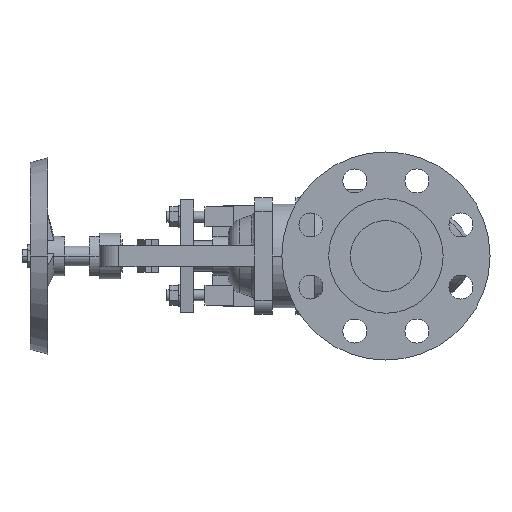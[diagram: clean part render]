
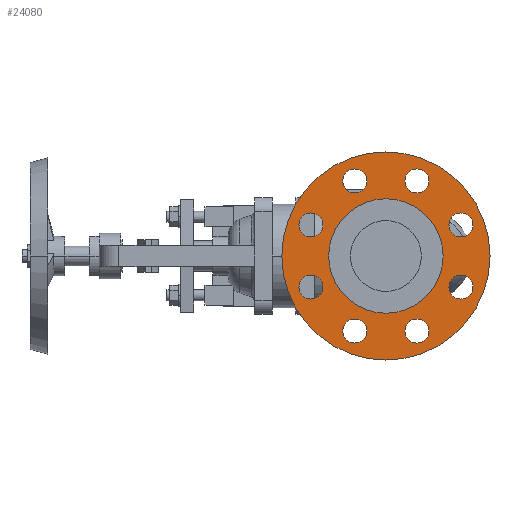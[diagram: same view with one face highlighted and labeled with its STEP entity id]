
A CAD part, left-side view. The second image highlights one B-rep face of the part: STEP entity #24080.
In plain terms, the highlighted planar face has unit normal (-1, 0, 0).
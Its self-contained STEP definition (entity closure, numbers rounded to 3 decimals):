
#5180=CARTESIAN_POINT('',(1.6,0.,95.5));
#5190=VERTEX_POINT('',#5180);
#5220=CARTESIAN_POINT('',(1.6,0.,0.));
#5230=DIRECTION('',(1.,0.,0.));
#5240=DIRECTION('',(0.,0.,-1.));
#5250=AXIS2_PLACEMENT_3D('',#5220,#5230,#5240);
#5260=CIRCLE('',#5250,95.5);
#5270=CARTESIAN_POINT('',(1.6,0.,-95.5));
#5280=VERTEX_POINT('',#5270);
#5290=EDGE_CURVE('',#5280,#5190,#5260,.T.);
#5670=CARTESIAN_POINT('',(1.6,28.51,
-79.829));
#5680=VERTEX_POINT('',#5670);
#5840=CARTESIAN_POINT('',(1.6,28.51,
-57.829));
#5850=VERTEX_POINT('',#5840);
#5880=CARTESIAN_POINT('',(1.6,28.51,
-68.829));
#5890=DIRECTION('',(-1.,0.,0.));
#5900=DIRECTION('',(0.,0.,-1.));
#5910=AXIS2_PLACEMENT_3D('',#5880,#5890,#5900);
#5920=CIRCLE('',#5910,11.);
#5930=EDGE_CURVE('',#5680,#5850,#5920,.T.);
#6160=CARTESIAN_POINT('',(1.6,-28.51,
-57.829));
#6170=VERTEX_POINT('',#6160);
#6330=CARTESIAN_POINT('',(1.6,-28.51,
-79.829));
#6340=VERTEX_POINT('',#6330);
#6370=CARTESIAN_POINT('',(1.6,-28.51,
-68.829));
#6380=DIRECTION('',(-1.,0.,0.));
#6390=DIRECTION('',(0.,0.,-1.));
#6400=AXIS2_PLACEMENT_3D('',#6370,#6380,#6390);
#6410=CIRCLE('',#6400,11.);
#6420=EDGE_CURVE('',#6170,#6340,#6410,.T.);
#6650=CARTESIAN_POINT('',(1.6,68.829,
-39.51));
#6660=VERTEX_POINT('',#6650);
#6820=CARTESIAN_POINT('',(1.6,68.829,
-17.51));
#6830=VERTEX_POINT('',#6820);
#6860=CARTESIAN_POINT('',(1.6,68.829,
-28.51));
#6870=DIRECTION('',(-1.,0.,0.));
#6880=DIRECTION('',(0.,0.,-1.));
#6890=AXIS2_PLACEMENT_3D('',#6860,#6870,#6880);
#6900=CIRCLE('',#6890,11.);
#6910=EDGE_CURVE('',#6660,#6830,#6900,.T.);
#7140=CARTESIAN_POINT('',(1.6,-68.829,
-17.51));
#7150=VERTEX_POINT('',#7140);
#7310=CARTESIAN_POINT('',(1.6,-68.829,
-39.51));
#7320=VERTEX_POINT('',#7310);
#7350=CARTESIAN_POINT('',(1.6,-68.829,
-28.51));
#7360=DIRECTION('',(-1.,0.,0.));
#7370=DIRECTION('',(0.,0.,-1.));
#7380=AXIS2_PLACEMENT_3D('',#7350,#7360,#7370);
#7390=CIRCLE('',#7380,11.);
#7400=EDGE_CURVE('',#7150,#7320,#7390,.T.);
#7630=CARTESIAN_POINT('',(1.6,68.829,
17.51));
#7640=VERTEX_POINT('',#7630);
#7800=CARTESIAN_POINT('',(1.6,68.829,
39.51));
#7810=VERTEX_POINT('',#7800);
#7840=CARTESIAN_POINT('',(1.6,68.829,
28.51));
#7850=DIRECTION('',(-1.,0.,0.));
#7860=DIRECTION('',(0.,0.,-1.));
#7870=AXIS2_PLACEMENT_3D('',#7840,#7850,#7860);
#7880=CIRCLE('',#7870,11.);
#7890=EDGE_CURVE('',#7640,#7810,#7880,.T.);
#8120=CARTESIAN_POINT('',(1.6,-68.829,
17.51));
#8130=VERTEX_POINT('',#8120);
#8160=CARTESIAN_POINT('',(1.6,-68.829,
28.51));
#8170=DIRECTION('',(-1.,0.,0.));
#8180=DIRECTION('',(0.,0.,-1.));
#8190=AXIS2_PLACEMENT_3D('',#8160,#8170,#8180);
#8200=CIRCLE('',#8190,11.);
#8210=CARTESIAN_POINT('',(1.6,-68.829,
39.51));
#8220=VERTEX_POINT('',#8210);
#8230=EDGE_CURVE('',#8220,#8130,#8200,.T.);
#8610=CARTESIAN_POINT('',(1.6,28.51,
57.829));
#8620=VERTEX_POINT('',#8610);
#8780=CARTESIAN_POINT('',(1.6,28.51,
79.829));
#8790=VERTEX_POINT('',#8780);
#8820=CARTESIAN_POINT('',(1.6,28.51,
68.829));
#8830=DIRECTION('',(-1.,0.,0.));
#8840=DIRECTION('',(0.,0.,-1.));
#8850=AXIS2_PLACEMENT_3D('',#8820,#8830,#8840);
#8860=CIRCLE('',#8850,11.);
#8870=EDGE_CURVE('',#8620,#8790,#8860,.T.);
#9100=CARTESIAN_POINT('',(1.6,-28.51,
79.829));
#9110=VERTEX_POINT('',#9100);
#9270=CARTESIAN_POINT('',(1.6,-28.51,
57.829));
#9280=VERTEX_POINT('',#9270);
#9310=CARTESIAN_POINT('',(1.6,-28.51,
68.829));
#9320=DIRECTION('',(-1.,0.,0.));
#9330=DIRECTION('',(0.,0.,-1.));
#9340=AXIS2_PLACEMENT_3D('',#9310,#9320,#9330);
#9350=CIRCLE('',#9340,11.);
#9360=EDGE_CURVE('',#9110,#9280,#9350,.T.);
#9590=CARTESIAN_POINT('',(1.6,-52.5,0.));
#9600=VERTEX_POINT('',#9590);
#9760=CARTESIAN_POINT('',(1.6,52.5,0.));
#9770=VERTEX_POINT('',#9760);
#9800=CARTESIAN_POINT('',(1.6,0.,0.));
#9810=DIRECTION('',(-1.,0.,0.));
#9820=DIRECTION('',(0.,1.,0.));
#9830=AXIS2_PLACEMENT_3D('',#9800,#9810,#9820);
#9840=CIRCLE('',#9830,52.5);
#9850=EDGE_CURVE('',#9600,#9770,#9840,.T.);
#23530=CARTESIAN_POINT('',(1.6,74.,0.));
#23540=DIRECTION('',(1.,0.,0.));
#23550=DIRECTION('',(0.,-1.,0.));
#23560=AXIS2_PLACEMENT_3D('',#23530,#23540,#23550);
#23570=PLANE('',#23560);
#23580=EDGE_CURVE('',#9770,#9600,#9840,.T.);
#23590=ORIENTED_EDGE('',*,*,#23580,.F.);
#23600=ORIENTED_EDGE('',*,*,#9850,.F.);
#23610=EDGE_LOOP('',(#23600,#23590));
#23620=FACE_BOUND('',#23610,.T.);
#23630=EDGE_CURVE('',#5190,#5280,#5260,.T.);
#23640=ORIENTED_EDGE('',*,*,#23630,.F.);
#23650=ORIENTED_EDGE('',*,*,#5290,.F.);
#23660=EDGE_LOOP('',(#23650,#23640));
#23670=FACE_OUTER_BOUND('',#23660,.T.);
#23680=EDGE_CURVE('',#5850,#5680,#5920,.T.);
#23690=ORIENTED_EDGE('',*,*,#23680,.F.);
#23700=ORIENTED_EDGE('',*,*,#5930,.F.);
#23710=EDGE_LOOP('',(#23700,#23690));
#23720=FACE_BOUND('',#23710,.T.);
#23730=EDGE_CURVE('',#6340,#6170,#6410,.T.);
#23740=ORIENTED_EDGE('',*,*,#23730,.F.);
#23750=ORIENTED_EDGE('',*,*,#6420,.F.);
#23760=EDGE_LOOP('',(#23750,#23740));
#23770=FACE_BOUND('',#23760,.T.);
#23780=EDGE_CURVE('',#6830,#6660,#6900,.T.);
#23790=ORIENTED_EDGE('',*,*,#23780,.F.);
#23800=ORIENTED_EDGE('',*,*,#6910,.F.);
#23810=EDGE_LOOP('',(#23800,#23790));
#23820=FACE_BOUND('',#23810,.T.);
#23830=EDGE_CURVE('',#7320,#7150,#7390,.T.);
#23840=ORIENTED_EDGE('',*,*,#23830,.F.);
#23850=ORIENTED_EDGE('',*,*,#7400,.F.);
#23860=EDGE_LOOP('',(#23850,#23840));
#23870=FACE_BOUND('',#23860,.T.);
#23880=EDGE_CURVE('',#7810,#7640,#7880,.T.);
#23890=ORIENTED_EDGE('',*,*,#23880,.F.);
#23900=ORIENTED_EDGE('',*,*,#7890,.F.);
#23910=EDGE_LOOP('',(#23900,#23890));
#23920=FACE_BOUND('',#23910,.T.);
#23930=ORIENTED_EDGE('',*,*,#8230,.F.);
#23940=EDGE_CURVE('',#8130,#8220,#8200,.T.);
#23950=ORIENTED_EDGE('',*,*,#23940,.F.);
#23960=EDGE_LOOP('',(#23950,#23930));
#23970=FACE_BOUND('',#23960,.T.);
#23980=EDGE_CURVE('',#8790,#8620,#8860,.T.);
#23990=ORIENTED_EDGE('',*,*,#23980,.F.);
#24000=ORIENTED_EDGE('',*,*,#8870,.F.);
#24010=EDGE_LOOP('',(#24000,#23990));
#24020=FACE_BOUND('',#24010,.T.);
#24030=EDGE_CURVE('',#9280,#9110,#9350,.T.);
#24040=ORIENTED_EDGE('',*,*,#24030,.F.);
#24050=ORIENTED_EDGE('',*,*,#9360,.F.);
#24060=EDGE_LOOP('',(#24050,#24040));
#24070=FACE_BOUND('',#24060,.T.);
#24080=ADVANCED_FACE('',(#23620,#23670,#23720,#23770,#23820,#23870,
#23920,#23970,#24020,#24070),#23570,.F.);
